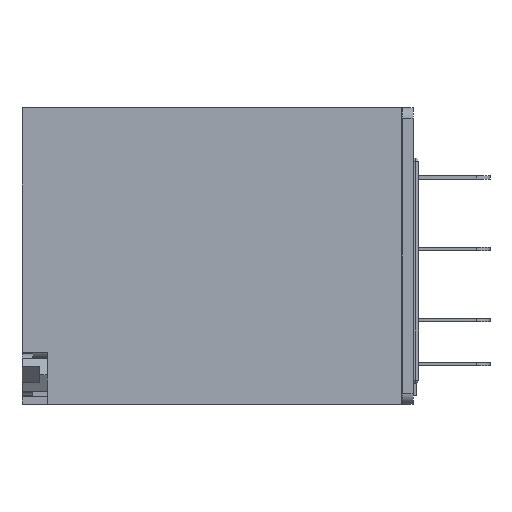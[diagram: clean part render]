
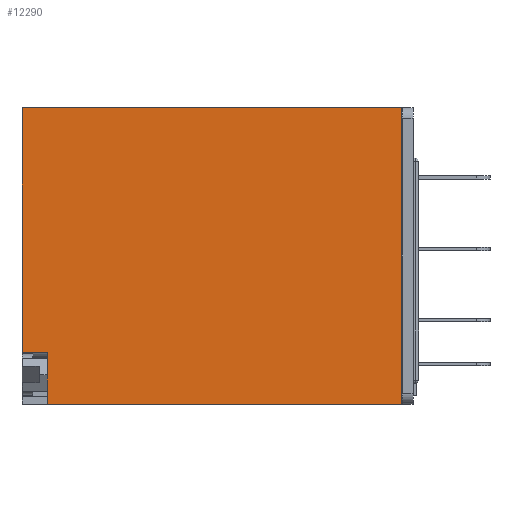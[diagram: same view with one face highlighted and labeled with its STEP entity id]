
A CAD part, left-side view. The second image highlights one B-rep face of the part: STEP entity #12290.
In plain terms, the highlighted planar face has unit normal (-1, 0, 0).
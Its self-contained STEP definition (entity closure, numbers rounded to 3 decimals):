
#167 = FACE_OUTER_BOUND ( 'NONE', #7719, .T. ) ;
#537 = AXIS2_PLACEMENT_3D ( 'NONE', #2448, #2449, #2450 ) ;
#1581 = CARTESIAN_POINT ( 'NONE',  ( -10.5, 33.3, -13.5 ) ) ;
#1582 = CARTESIAN_POINT ( 'NONE',  ( -10.5, 33.3, -8.8 ) ) ;
#1708 = CARTESIAN_POINT ( 'NONE',  ( -10.5, 35.6, 13.5 ) ) ;
#1710 = CARTESIAN_POINT ( 'NONE',  ( -10.5, 35.6, -8.8 ) ) ;
#1792 = CARTESIAN_POINT ( 'NONE',  ( -10.5, 1.1, -13.5 ) ) ;
#1794 = CARTESIAN_POINT ( 'NONE',  ( -10.5, 1.1, 13.5 ) ) ;
#2337 = LINE ( 'NONE', #2338, #11084 ) ;
#2338 = CARTESIAN_POINT ( 'NONE',  ( -10.5, 1.1, 13.5 ) ) ;
#2339 = DIRECTION ( 'NONE',  ( 0., 0., 1. ) ) ;
#2447 = PLANE ( 'NONE',  #537 ) ;
#2448 = CARTESIAN_POINT ( 'NONE',  ( -10.5, 35.6, 13.5 ) ) ;
#2449 = DIRECTION ( 'NONE',  ( 1., 0., 0. ) ) ;
#2450 = DIRECTION ( 'NONE',  ( 0., 0., -1. ) ) ;
#3223 = VERTEX_POINT ( 'NONE', #1581 ) ;
#3224 = VERTEX_POINT ( 'NONE', #1582 ) ;
#3306 = VERTEX_POINT ( 'NONE', #1708 ) ;
#3307 = VERTEX_POINT ( 'NONE', #1710 ) ;
#3348 = VERTEX_POINT ( 'NONE', #1792 ) ;
#3349 = VERTEX_POINT ( 'NONE', #1794 ) ;
#7719 = EDGE_LOOP ( 'NONE', ( #11987, #11988, #11985, #11989, #11991, #11992 ) ) ;
#9333 = VECTOR ( 'NONE', #11135, 1000. ) ;
#9343 = VECTOR ( 'NONE', #11144, 1000. ) ;
#9413 = VECTOR ( 'NONE', #11389, 1000. ) ;
#9451 = VECTOR ( 'NONE', #11138, 1000. ) ;
#9458 = VECTOR ( 'NONE', #11153, 1000. ) ;
#11084 = VECTOR ( 'NONE', #2339, 1000. ) ;
#11133 = LINE ( 'NONE', #11134, #9333 ) ;
#11134 = CARTESIAN_POINT ( 'NONE',  ( -10.5, 35.6, -13.5 ) ) ;
#11135 = DIRECTION ( 'NONE',  ( 0., -1., 0. ) ) ;
#11136 = LINE ( 'NONE', #11137, #9451 ) ;
#11137 = CARTESIAN_POINT ( 'NONE',  ( -10.5, 33.3, -8.8 ) ) ;
#11138 = DIRECTION ( 'NONE',  ( 0., 1., 0. ) ) ;
#11142 = LINE ( 'NONE', #11143, #9343 ) ;
#11143 = CARTESIAN_POINT ( 'NONE',  ( -10.5, 35.6, 13.5 ) ) ;
#11144 = DIRECTION ( 'NONE',  ( 0., -1., 0. ) ) ;
#11151 = LINE ( 'NONE', #11152, #9458 ) ;
#11152 = CARTESIAN_POINT ( 'NONE',  ( -10.5, 35.6, 13.5 ) ) ;
#11153 = DIRECTION ( 'NONE',  ( 0., 0., 1. ) ) ;
#11387 = LINE ( 'NONE', #11388, #9413 ) ;
#11388 = CARTESIAN_POINT ( 'NONE',  ( -10.5, 33.3, -13.5 ) ) ;
#11389 = DIRECTION ( 'NONE',  ( 0., 0., 1. ) ) ;
#11985 = ORIENTED_EDGE ( 'NONE', *, *, #12928, .F. ) ;
#11987 = ORIENTED_EDGE ( 'NONE', *, *, #12852, .F. ) ;
#11988 = ORIENTED_EDGE ( 'NONE', *, *, #12847, .F. ) ;
#11989 = ORIENTED_EDGE ( 'NONE', *, *, #12846, .T. ) ;
#11991 = ORIENTED_EDGE ( 'NONE', *, *, #12255, .T. ) ;
#11992 = ORIENTED_EDGE ( 'NONE', *, *, #12849, .F. ) ;
#12255 = EDGE_CURVE ( 'NONE', #3348, #3349, #2337, .T. ) ;
#12290 = ADVANCED_FACE ( 'NONE', ( #167 ), #2447, .F. ) ;
#12846 = EDGE_CURVE ( 'NONE', #3223, #3348, #11133, .T. ) ;
#12847 = EDGE_CURVE ( 'NONE', #3224, #3307, #11136, .T. ) ;
#12849 = EDGE_CURVE ( 'NONE', #3306, #3349, #11142, .T. ) ;
#12852 = EDGE_CURVE ( 'NONE', #3307, #3306, #11151, .T. ) ;
#12928 = EDGE_CURVE ( 'NONE', #3223, #3224, #11387, .T. ) ;
